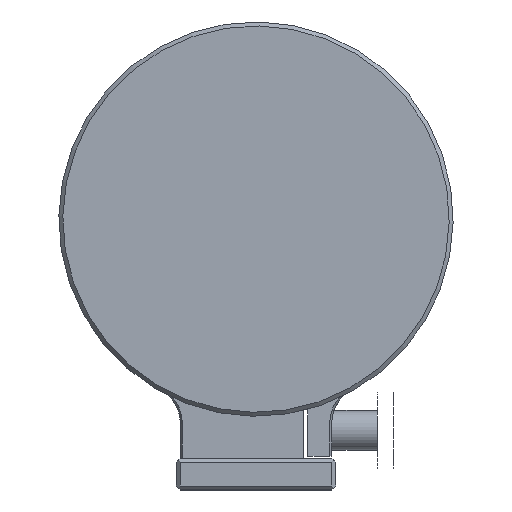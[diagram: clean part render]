
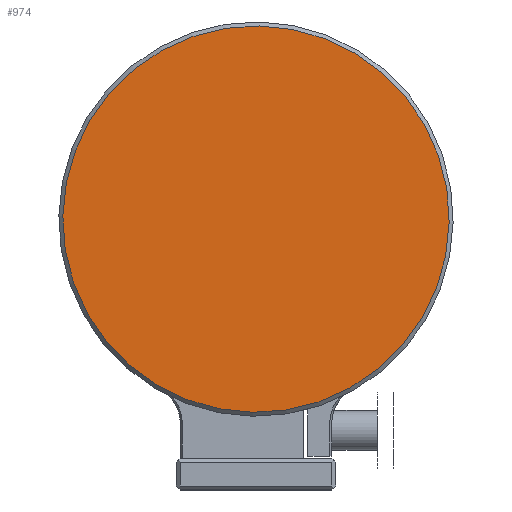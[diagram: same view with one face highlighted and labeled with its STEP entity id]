
A CAD part, left-side view. The second image highlights one B-rep face of the part: STEP entity #974.
In plain terms, the highlighted planar face has unit normal (-1, 0, 0).
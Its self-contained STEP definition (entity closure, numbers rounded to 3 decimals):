
#934=CARTESIAN_POINT('',(-60.106,-20.865,-48.493));
#935=VERTEX_POINT('',#934);
#936=CARTESIAN_POINT('',(-60.106,-21.681,0.));
#937=DIRECTION('',(1.,0.,0.));
#938=DIRECTION('',(0.,0.017,-1.));
#939=AXIS2_PLACEMENT_3D('',#936,#937,#938);
#940=CIRCLE('',#939,48.5);
#941=EDGE_CURVE('',#935,#935,#940,.T.);
#966=CARTESIAN_POINT('',(-60.106,-20.878,-47.723));
#967=DIRECTION('',(-1.0,0.0,0.0));
#968=DIRECTION('',(0.0,1.,0.017));
#969=AXIS2_PLACEMENT_3D('',#966,#967,#968);
#970=PLANE('',#969);
#971=ORIENTED_EDGE('',*,*,#941,.F.);
#972=EDGE_LOOP('',(#971));
#973=FACE_OUTER_BOUND('',#972,.T.);
#974=ADVANCED_FACE('',(#973),#970,.T.);
